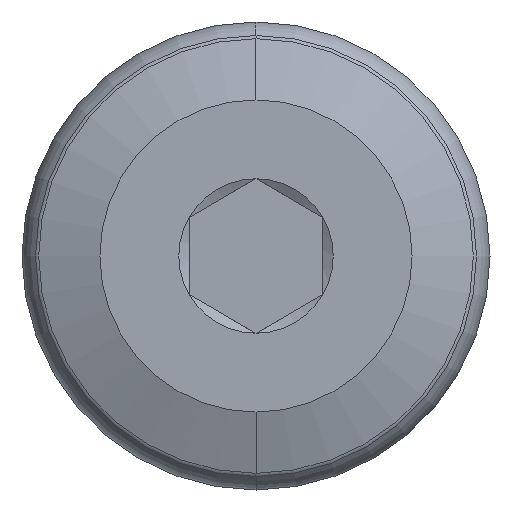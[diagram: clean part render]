
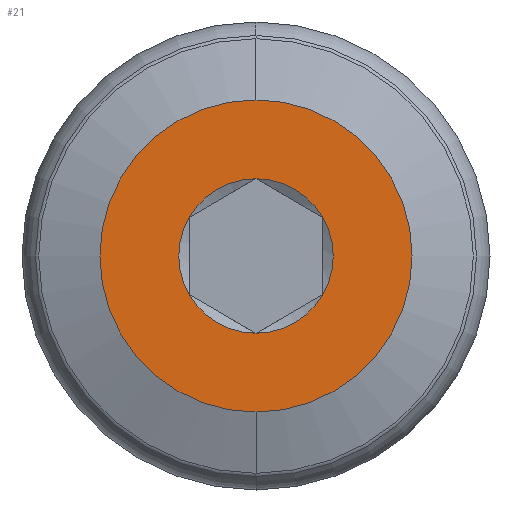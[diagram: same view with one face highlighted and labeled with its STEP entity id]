
A CAD part, left-side view. The second image highlights one B-rep face of the part: STEP entity #21.
In plain terms, the highlighted planar face has unit normal (-1, 0, 0).
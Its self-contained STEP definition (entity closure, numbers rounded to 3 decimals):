
#6 = FACE_OUTER_BOUND ( 'NONE', #377, .T. ) ;
#17 = CARTESIAN_POINT ( 'NONE',  ( 0., 0., 1.732 ) ) ;
#21 = ADVANCED_FACE ( 'NONE', ( #412, #6 ), #153, .T. ) ;
#44 = EDGE_CURVE ( 'NONE', #580, #252, #428, .T. ) ;
#70 = DIRECTION ( 'NONE',  ( 1., 0., 0. ) ) ;
#79 = VERTEX_POINT ( 'NONE', #603 ) ;
#83 = CARTESIAN_POINT ( 'NONE',  ( 0., 0., 0. ) ) ;
#88 = DIRECTION ( 'NONE',  ( -1., 0., 0. ) ) ;
#90 = DIRECTION ( 'NONE',  ( 1., 0., 0. ) ) ;
#98 = CIRCLE ( 'NONE', #578, 1.732 ) ;
#100 = CARTESIAN_POINT ( 'NONE',  ( 0., 0., 0. ) ) ;
#103 = CARTESIAN_POINT ( 'NONE',  ( 0., 1.5, -0.866 ) ) ;
#109 = DIRECTION ( 'NONE',  ( 1., 0., 0. ) ) ;
#112 = EDGE_CURVE ( 'NONE', #827, #79, #695, .T. ) ;
#118 = VERTEX_POINT ( 'NONE', #476 ) ;
#121 = ORIENTED_EDGE ( 'NONE', *, *, #565, .F. ) ;
#132 = VERTEX_POINT ( 'NONE', #17 ) ;
#139 = VERTEX_POINT ( 'NONE', #280 ) ;
#153 = PLANE ( 'NONE',  #253 ) ;
#162 = AXIS2_PLACEMENT_3D ( 'NONE', #684, #762, #320 ) ;
#167 = DIRECTION ( 'NONE',  ( 0., 0., -1. ) ) ;
#175 = VERTEX_POINT ( 'NONE', #421 ) ;
#219 = DIRECTION ( 'NONE',  ( 0., 0., -1. ) ) ;
#242 = ORIENTED_EDGE ( 'NONE', *, *, #792, .T. ) ;
#252 = VERTEX_POINT ( 'NONE', #103 ) ;
#253 = AXIS2_PLACEMENT_3D ( 'NONE', #794, #88, #789 ) ;
#254 = CIRCLE ( 'NONE', #696, 3.5 ) ;
#255 = ORIENTED_EDGE ( 'NONE', *, *, #44, .T. ) ;
#268 = AXIS2_PLACEMENT_3D ( 'NONE', #283, #534, #219 ) ;
#269 = ORIENTED_EDGE ( 'NONE', *, *, #839, .T. ) ;
#270 = CIRCLE ( 'NONE', #798, 1.732 ) ;
#277 = DIRECTION ( 'NONE',  ( 0., 0., -1. ) ) ;
#280 = CARTESIAN_POINT ( 'NONE',  ( 0., -1.5, 0.866 ) ) ;
#283 = CARTESIAN_POINT ( 'NONE',  ( 0., 0., 0. ) ) ;
#289 = DIRECTION ( 'NONE',  ( 1., 0., 0. ) ) ;
#300 = CARTESIAN_POINT ( 'NONE',  ( 0., 0., -1.732 ) ) ;
#312 = CIRCLE ( 'NONE', #365, 1.732 ) ;
#320 = DIRECTION ( 'NONE',  ( 0., 0., -1. ) ) ;
#365 = AXIS2_PLACEMENT_3D ( 'NONE', #795, #90, #738 ) ;
#367 = DIRECTION ( 'NONE',  ( 0., 0., -1. ) ) ;
#377 = EDGE_LOOP ( 'NONE', ( #383, #121 ) ) ;
#383 = ORIENTED_EDGE ( 'NONE', *, *, #112, .F. ) ;
#399 = CARTESIAN_POINT ( 'NONE',  ( 0., 0., 0. ) ) ;
#401 = CARTESIAN_POINT ( 'NONE',  ( 0., 0., 0. ) ) ;
#412 = FACE_BOUND ( 'NONE', #572, .T. ) ;
#421 = CARTESIAN_POINT ( 'NONE',  ( 0., -1.5, -0.866 ) ) ;
#428 = CIRCLE ( 'NONE', #575, 1.732 ) ;
#432 = AXIS2_PLACEMENT_3D ( 'NONE', #691, #109, #367 ) ;
#458 = CIRCLE ( 'NONE', #432, 1.732 ) ;
#476 = CARTESIAN_POINT ( 'NONE',  ( 0., 1.5, 0.866 ) ) ;
#503 = ORIENTED_EDGE ( 'NONE', *, *, #746, .T. ) ;
#512 = CARTESIAN_POINT ( 'NONE',  ( 0., 0., -3.5 ) ) ;
#523 = CIRCLE ( 'NONE', #162, 1.732 ) ;
#534 = DIRECTION ( 'NONE',  ( 1., 0., 0. ) ) ;
#565 = EDGE_CURVE ( 'NONE', #79, #827, #254, .T. ) ;
#572 = EDGE_LOOP ( 'NONE', ( #503, #269, #637, #242, #255, #776 ) ) ;
#575 = AXIS2_PLACEMENT_3D ( 'NONE', #399, #713, #717 ) ;
#578 = AXIS2_PLACEMENT_3D ( 'NONE', #401, #70, #277 ) ;
#580 = VERTEX_POINT ( 'NONE', #300 ) ;
#588 = EDGE_CURVE ( 'NONE', #252, #118, #312, .T. ) ;
#603 = CARTESIAN_POINT ( 'NONE',  ( 0., 0., 3.5 ) ) ;
#614 = DIRECTION ( 'NONE',  ( 0., 0., -1. ) ) ;
#616 = EDGE_CURVE ( 'NONE', #139, #175, #270, .T. ) ;
#637 = ORIENTED_EDGE ( 'NONE', *, *, #616, .T. ) ;
#684 = CARTESIAN_POINT ( 'NONE',  ( 0., 0., 0. ) ) ;
#691 = CARTESIAN_POINT ( 'NONE',  ( 0., 0., 0. ) ) ;
#695 = CIRCLE ( 'NONE', #268, 3.5 ) ;
#696 = AXIS2_PLACEMENT_3D ( 'NONE', #83, #289, #167 ) ;
#713 = DIRECTION ( 'NONE',  ( 1., 0., 0. ) ) ;
#717 = DIRECTION ( 'NONE',  ( 0., 0., -1. ) ) ;
#738 = DIRECTION ( 'NONE',  ( 0., 0., -1. ) ) ;
#746 = EDGE_CURVE ( 'NONE', #118, #132, #523, .T. ) ;
#762 = DIRECTION ( 'NONE',  ( 1., 0., 0. ) ) ;
#776 = ORIENTED_EDGE ( 'NONE', *, *, #588, .T. ) ;
#789 = DIRECTION ( 'NONE',  ( 0., 0., 1. ) ) ;
#792 = EDGE_CURVE ( 'NONE', #175, #580, #458, .T. ) ;
#794 = CARTESIAN_POINT ( 'NONE',  ( 0., 3.5, 0. ) ) ;
#795 = CARTESIAN_POINT ( 'NONE',  ( 0., 0., 0. ) ) ;
#798 = AXIS2_PLACEMENT_3D ( 'NONE', #100, #804, #614 ) ;
#804 = DIRECTION ( 'NONE',  ( 1., 0., 0. ) ) ;
#827 = VERTEX_POINT ( 'NONE', #512 ) ;
#839 = EDGE_CURVE ( 'NONE', #132, #139, #98, .T. ) ;
